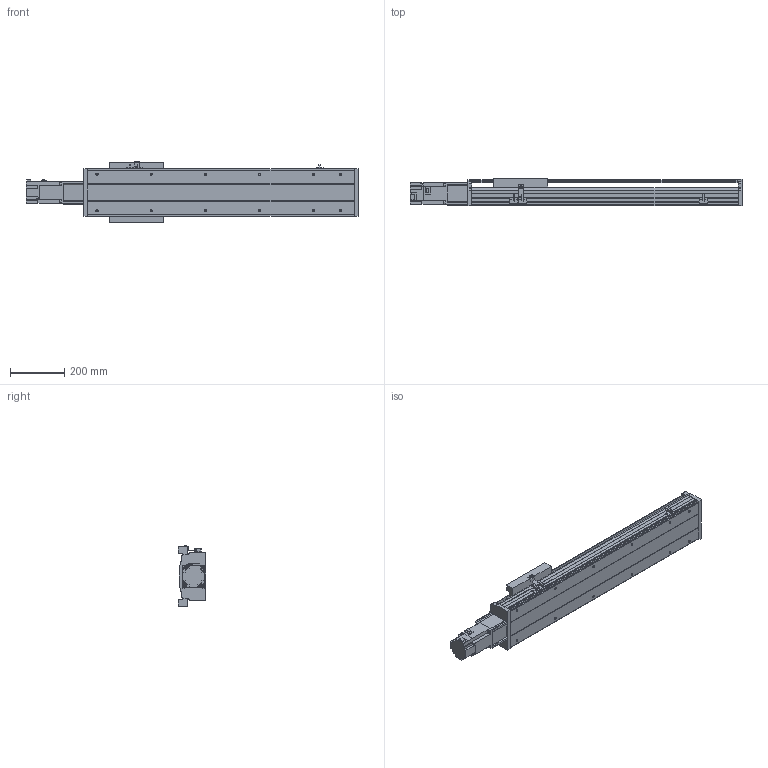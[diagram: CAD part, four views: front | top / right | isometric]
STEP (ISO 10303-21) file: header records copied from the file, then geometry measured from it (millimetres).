
FILE_DESCRIPTION( ( 'STEP AP214' ), '1' );
FILE_NAME( 'x:/temp/worker_27/temp/exporttempdir_6708_408_OWoLV/format_0/PSS200-L10-S650-BC-T75-C1-N(0).stp', '2022-06-06T02:34:12', ( 'License CC BY-ND 4.0' ), ( 'CADENAS' ), ' ', 'PARTsolutions', ' ' );
FILE_SCHEMA( ( 'AUTOMOTIVE_DESIGN { 1 0 10303 214 1 1 1 1 }' ) );
Length unit declared in the file: millimetre
Products named in the file (8): PSS200-L10-S650-BC-T75-C1-N(0); _PSS200-S650-BC-C1-N_body; _PSS200-N_Q; _PSS200-BC-C1-N_sl; _PSS200-N_sensor; _PSS200BC-N_h; _T75-p1; _PSS200-S650-BC-N_S
Assembly tree (9 placements, depth 2):
  PSS200-L10-S650-BC-T75-C1-N(0)
    _PSS200-S650-BC-C1-N_body
    _PSS200-N_Q
    _PSS200-BC-C1-N_sl
    _PSS200-N_sensor  x3
    _PSS200BC-N_h
    _T75-p1
    _PSS200-S650-BC-N_S
Bounding box: 1226.3 x 101.5 x 223.86 mm (x, y, z)
Volume: 7039713.9 mm3; surface area: 1722182.6 mm2
Topology: 9 solids, 9 shells, 577 faces, 1543 edges, 1024 vertices
Faces by surface type: plane 439, cylinder 118, cone 20
Full cylindrical faces by diameter (mm): 4 x2, 4.5 x4, 6 x11, 6.647 x16, 8 x8, 10 x6, 25 x1, 67 x1, 70 x1
Entity records: 20231 total; most frequent: CARTESIAN_POINT 2824, DIRECTION 2641, ORIENTED_EDGE 2630, EDGE_CURVE 1315, LINE 1051, VECTOR 1051, VERTEX_POINT 914, AXIS2_PLACEMENT_3D 795
